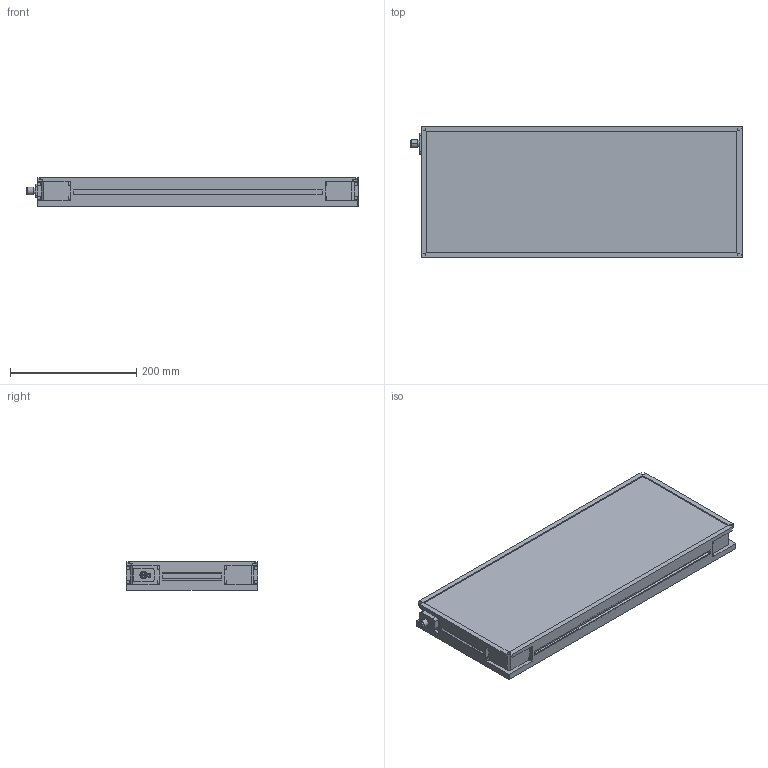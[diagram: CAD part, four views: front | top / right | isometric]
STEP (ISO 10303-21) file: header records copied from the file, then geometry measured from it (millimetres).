
FILE_DESCRIPTION (( 'STEP AP214' ), '1' );
FILE_NAME ('MBACK-xxxx-xxx-M1_CLIENT200x500.STEP', '2022-03-31T15:58:52', ( '' ), ( '' ), 'SwSTEP 2.0', 'SolidWorks 2020', '' );
FILE_SCHEMA (( 'AUTOMOTIVE_DESIGN' ));
Length unit declared in the file: millimetre
Products named in the file (1): MBACK-xxxx-xxx-M1_CLIENT200x500
Bounding box: 525.9 x 208 x 45.5 mm (x, y, z)
Volume: 4338735.5 mm3; surface area: 306189 mm2
Topology: 1 solids, 1 shells, 442 faces, 1144 edges, 760 vertices
Faces by surface type: plane 249, cylinder 105, bspline 80, cone 8
Entity records: 17236 total; most frequent: CARTESIAN_POINT 6699, ORIENTED_EDGE 2288, DIRECTION 1936, EDGE_CURVE 1144, VERTEX_POINT 760, LINE 758, VECTOR 758, AXIS2_PLACEMENT_3D 589
